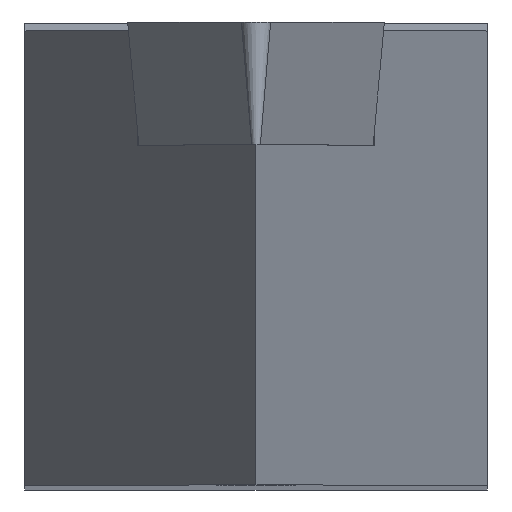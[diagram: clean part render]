
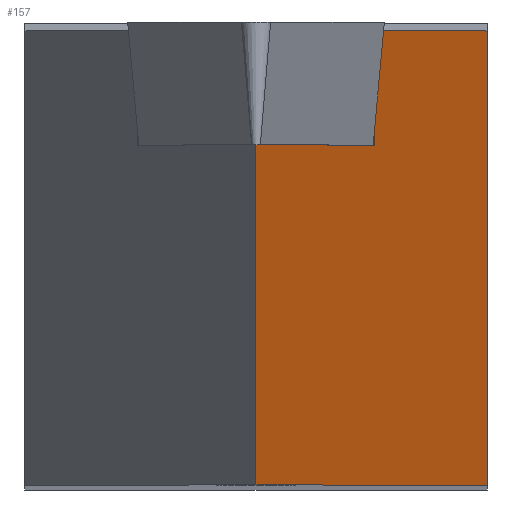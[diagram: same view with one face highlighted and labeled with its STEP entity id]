
A CAD part, top view. The second image highlights one B-rep face of the part: STEP entity #157.
In plain terms, the highlighted planar face has unit normal (0.954, 0, 0.301).
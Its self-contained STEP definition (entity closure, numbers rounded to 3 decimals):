
#157=ADVANCED_FACE('',(#210),#186,.F.);
#186=PLANE('',#722);
#210=FACE_OUTER_BOUND('',#245,.T.);
#245=EDGE_LOOP('',(#355,#356,#357,#358,#359,#360,#361,#362,#363));
#355=ORIENTED_EDGE('',*,*,#535,.T.);
#356=ORIENTED_EDGE('',*,*,#536,.T.);
#357=ORIENTED_EDGE('',*,*,#537,.F.);
#358=ORIENTED_EDGE('',*,*,#497,.F.);
#359=ORIENTED_EDGE('',*,*,#528,.F.);
#360=ORIENTED_EDGE('',*,*,#532,.F.);
#361=ORIENTED_EDGE('',*,*,#538,.F.);
#362=ORIENTED_EDGE('',*,*,#509,.F.);
#363=ORIENTED_EDGE('',*,*,#504,.T.);
#434=VERTEX_POINT('',#939);
#436=VERTEX_POINT('',#943);
#442=VERTEX_POINT('',#958);
#443=VERTEX_POINT('',#960);
#447=VERTEX_POINT('',#970);
#460=VERTEX_POINT('',#1007);
#463=VERTEX_POINT('',#1015);
#465=VERTEX_POINT('',#1022);
#466=VERTEX_POINT('',#1024);
#497=EDGE_CURVE('',#436,#434,#571,.T.);
#504=EDGE_CURVE('',#443,#442,#578,.T.);
#509=EDGE_CURVE('',#443,#447,#582,.T.);
#528=EDGE_CURVE('',#460,#436,#601,.T.);
#532=EDGE_CURVE('',#463,#460,#604,.T.);
#535=EDGE_CURVE('',#442,#465,#606,.T.);
#536=EDGE_CURVE('',#465,#466,#607,.T.);
#537=EDGE_CURVE('',#434,#466,#608,.T.);
#538=EDGE_CURVE('',#447,#463,#609,.T.);
#571=LINE('',#944,#640);
#578=LINE('',#959,#647);
#582=LINE('',#969,#651);
#601=LINE('',#1008,#670);
#604=LINE('',#1016,#673);
#606=LINE('',#1021,#675);
#607=LINE('',#1023,#676);
#608=LINE('',#1025,#677);
#609=LINE('',#1026,#678);
#640=VECTOR('',#785,1.);
#647=VECTOR('',#796,1.);
#651=VECTOR('',#804,1.);
#670=VECTOR('',#835,1.);
#673=VECTOR('',#842,1.);
#675=VECTOR('',#848,1.);
#676=VECTOR('',#849,1.);
#677=VECTOR('',#850,1.);
#678=VECTOR('',#851,1.);
#722=AXIS2_PLACEMENT_3D('',#1027,#852,#853);
#785=DIRECTION('',(0.045,0.989,-0.144));
#796=DIRECTION('',(0.,1.,0.));
#804=DIRECTION('',(-0.301,0.,0.954));
#835=DIRECTION('',(0.,1.,0.));
#842=DIRECTION('',(0.301,0.,-0.954));
#848=DIRECTION('',(-0.301,0.,0.954));
#849=DIRECTION('',(0.,-1.,0.));
#850=DIRECTION('',(0.301,0.,-0.954));
#851=DIRECTION('',(0.,1.,0.));
#852=DIRECTION('',(-0.954,0.,-0.301));
#853=DIRECTION('',(-0.301,0.,0.954));
#939=CARTESIAN_POINT('',(3.124,-0.5,-10.143));
#943=CARTESIAN_POINT('',(3.07,-1.68,-9.971));
#944=CARTESIAN_POINT('',(3.144,-0.074,-10.205));
#958=CARTESIAN_POINT('',(6.,-0.2,-19.263));
#959=CARTESIAN_POINT('',(6.,0.,-19.263));
#960=CARTESIAN_POINT('',(6.,-12.,-19.263));
#969=CARTESIAN_POINT('',(0.,-12.,-0.234));
#970=CARTESIAN_POINT('',(0.,-12.,-0.234));
#1007=CARTESIAN_POINT('',(3.07,-3.18,-9.971));
#1008=CARTESIAN_POINT('',(3.07,-3.18,-9.971));
#1015=CARTESIAN_POINT('',(0.,-3.18,-0.234));
#1016=CARTESIAN_POINT('',(-0.055,-3.18,-0.06));
#1021=CARTESIAN_POINT('',(0.,-0.2,-0.234));
#1022=CARTESIAN_POINT('',(3.243,-0.2,-10.519));
#1023=CARTESIAN_POINT('',(3.243,-12.,-10.519));
#1024=CARTESIAN_POINT('',(3.243,-0.5,-10.519));
#1025=CARTESIAN_POINT('',(0.,-0.5,-0.234));
#1026=CARTESIAN_POINT('',(0.,-12.,-0.234));
#1027=CARTESIAN_POINT('',(0.,-12.,-0.234));
